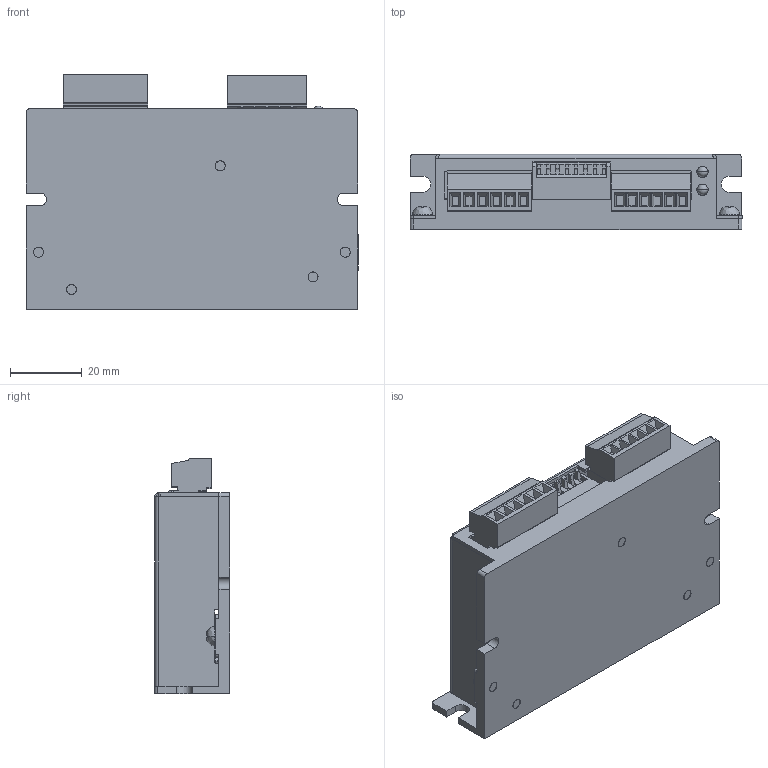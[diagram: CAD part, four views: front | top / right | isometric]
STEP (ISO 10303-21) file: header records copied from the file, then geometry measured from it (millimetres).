
FILE_DESCRIPTION((''),'2;1');
FILE_NAME('R42','2025-03-20T09:33:31',('ruiwe'),(''),'CREO PARAMETRIC BY PTC INC, 2021063','CREO PARAMETRIC BY PTC INC, 2021063','');
FILE_SCHEMA(('CONFIG_CONTROL_DESIGN','SHAPE_APPEARANCE_LAYERS_GROUPS'));
Products named in the file (1): R42
Bounding box: 92.65 x 21 x 65.6 mm (x, y, z)
Volume: 39729.4 mm3; surface area: 45494.2 mm2
Topology: 6 solids, 245 shells, 2194 faces, 8409 edges, 6532 vertices
Faces by surface type: plane 1372, cylinder 555, cone 104, torus 62, sphere 60, bspline 41
Entity records: 110952 total; most frequent: CARTESIAN_POINT 27051, ORIENTED_EDGE 13238, DIRECTION 11769, EDGE_CURVE 8349, VERTEX_POINT 6570, VECTOR 5057, LINE 5057, PRESENTATION_STYLE_ASSIGNMENT 4490
